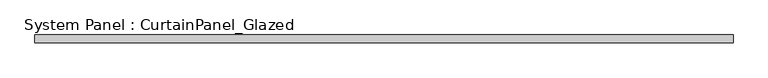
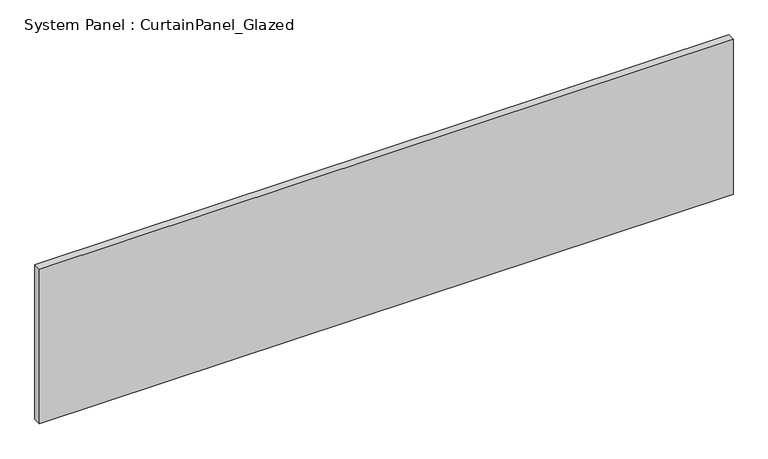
"""IFC4 building model written with IfcOpenShell, lengths in millimetres: plate geometry, System Panel : CurtainPanel_Glazed."""

import ifcopenshell
import ifcopenshell.guid

model = None  # the IFC model being written
_history = None  # IfcOwnerHistory: only IFC2X3 demands one
_inside = {}  # id of a spatial element -> (the spatial element, [elements in it])
_under = {}  # id of a project, library or spatial element -> (it, [spatial elements below it])
_declared = {}  # id of a project -> (the project, [libraries it declares])
_typed = {}  # id of a type object -> (the type object, [elements of that type])
_made_of = {}  # id of a material, layer set ... -> (it, [elements and type objects made of it])


def new_model(schema):
    """Start an empty IFC model of exactly this schema.

    Asked for "IFC4X3", IfcOpenShell would pick the latest addendum, in which some entities
    have other attributes; the version numbers below select the first issue.
    IFC2X3 requires an IfcOwnerHistory on every rooted entity: one is made here for all.
    """
    global model, _history
    if schema == "IFC4X3":
        model = ifcopenshell.file(schema_version=(4, 3, 0, 0))
    else:
        model = ifcopenshell.file(schema=schema)
    _inside.clear()
    _under.clear()
    _declared.clear()
    _typed.clear()
    _made_of.clear()
    _history = None
    if model.schema == "IFC2X3":
        org = make("IfcOrganization", Name="unknown")
        user = make(
            "IfcPersonAndOrganization",
            ThePerson=make("IfcPerson", FamilyName="unknown"),
            TheOrganization=org,
        )
        app = make(
            "IfcApplication",
            ApplicationDeveloper=org,
            Version="unknown",
            ApplicationFullName="unknown",
            ApplicationIdentifier="unknown",
        )
        _history = make(
            "IfcOwnerHistory",
            OwningUser=user,
            OwningApplication=app,
            ChangeAction="ADDED",
            CreationDate=0,
        )
    return model


def make(cls, **values):
    """One entity of the class cls with the attributes given. An attribute that is None is left unset."""
    return model.create_entity(
        cls, **{name: value for name, value in values.items() if value is not None}
    )


def rooted(cls, **values):
    """An entity with a GlobalId (a new one), such as an element, a storey or a relation."""
    return make(cls, GlobalId=ifcopenshell.guid.new(), OwnerHistory=_history, **values)


def si_unit(unit_type, name, prefix=None):
    """IfcSIUnit, for example si_unit("LENGTHUNIT", "METRE", prefix="MILLI")."""
    return make("IfcSIUnit", UnitType=unit_type, Prefix=prefix, Name=name)


def assignment(units):
    """IfcUnitAssignment: the units of a project."""
    return None if units is None else make("IfcUnitAssignment", Units=units)


def point(xyz):
    """IfcCartesianPoint."""
    return None if xyz is None else make("IfcCartesianPoint", Coordinates=xyz)


def direction(xyz):
    """IfcDirection."""
    return None if xyz is None else make("IfcDirection", DirectionRatios=xyz)


def frame(location, z_axis=None, x_axis=None):
    """IfcAxis2Placement3D, a coordinate frame: its origin and axes. An axis left out is left unset."""
    return make(
        "IfcAxis2Placement3D",
        Location=point(location),
        Axis=direction(z_axis),
        RefDirection=direction(x_axis),
    )


def origin():
    """The frame at (0, 0, 0) with its axes left unset."""
    return frame((0.0, 0.0, 0.0))


def origin_with_axes():
    """The frame at (0, 0, 0) with the z axis (0, 0, 1) and the x axis (1, 0, 0) written out."""
    return frame((0.0, 0.0, 0.0), z_axis=(0.0, 0.0, 1.0), x_axis=(1.0, 0.0, 0.0))


def place(relative_to, where):
    """IfcLocalPlacement: puts the frame where relative to a parent placement (None: the world)."""
    return make(
        "IfcLocalPlacement", PlacementRelTo=relative_to, RelativePlacement=where
    )


def context(
    kind, dimensions, precision=None, world=None, true_north=None, identifier=None
):
    """IfcGeometricRepresentationContext, for example the 3D "Model" context."""
    return make(
        "IfcGeometricRepresentationContext",
        ContextIdentifier=identifier,
        ContextType=kind,
        CoordinateSpaceDimension=dimensions,
        Precision=precision,
        WorldCoordinateSystem=world,
        TrueNorth=true_north,
    )


def project(units=None, contexts=None):
    """IfcProject with its units and contexts."""
    return rooted(
        "IfcProject",
        Name="project",
        RepresentationContexts=contexts,
        UnitsInContext=assignment(units),
    )


def spatial(cls, under=None, at=None, **own):
    """A site, building, storey or space (cls), placed at a placement, below another one or the project."""
    s = rooted(cls, ObjectPlacement=at, **own)
    if under is not None:
        _under.setdefault(under.id(), (under, []))[1].append(s)
    return s


def polyline(points):
    """IfcPolyline through the points."""
    return make("IfcPolyline", Points=[point(p) for p in points])


def outline(outer, holes=None, kind="AREA"):
    """IfcArbitraryClosedProfileDef: a profile drawn as a closed curve; with holes, ...WithVoids."""
    if holes is None:
        return make("IfcArbitraryClosedProfileDef", ProfileType=kind, OuterCurve=outer)
    return make(
        "IfcArbitraryProfileDefWithVoids",
        ProfileType=kind,
        OuterCurve=outer,
        InnerCurves=holes,
    )


def extrude(swept, where, along, depth):
    """IfcExtrudedAreaSolid: the profile swept, set in the frame where, extruded along a direction by depth."""
    return make(
        "IfcExtrudedAreaSolid",
        SweptArea=swept,
        Position=where,
        ExtrudedDirection=direction(along),
        Depth=depth,
    )


def shape(context_of_items, identifier, shape_type, items):
    """IfcShapeRepresentation: the items that make up one representation, for example the "Body"."""
    return make(
        "IfcShapeRepresentation",
        ContextOfItems=context_of_items,
        RepresentationIdentifier=identifier,
        RepresentationType=shape_type,
        Items=items,
    )


def source(mapping_origin, context_of_items, identifier, shape_type, items):
    """IfcRepresentationMap: a shape defined once, which mapped items show again and again."""
    return make(
        "IfcRepresentationMap",
        MappingOrigin=mapping_origin,
        MappedRepresentation=shape(context_of_items, identifier, shape_type, items),
    )


def transform(
    local_origin,
    x_axis=None,
    y_axis=None,
    z_axis=None,
    scale=None,
    scale2=None,
    scale3=None,
    uniform=True,
):
    """IfcCartesianTransformationOperator3D, or its non-uniform kind. x_axis, y_axis, z_axis: its Axis1, 2, 3."""
    if uniform:
        return make(
            "IfcCartesianTransformationOperator3D",
            Axis1=direction(x_axis),
            Axis2=direction(y_axis),
            LocalOrigin=point(local_origin),
            Scale=scale,
            Axis3=direction(z_axis),
        )
    return make(
        "IfcCartesianTransformationOperator3DnonUniform",
        Axis1=direction(x_axis),
        Axis2=direction(y_axis),
        LocalOrigin=point(local_origin),
        Scale=scale,
        Axis3=direction(z_axis),
        Scale2=scale2,
        Scale3=scale3,
    )


def mapped(mapping_source, mapping_target):
    """IfcMappedItem: shows the shape of a source again, moved by a transform."""
    return make(
        "IfcMappedItem", MappingSource=mapping_source, MappingTarget=mapping_target
    )


def made_of(thing, what):
    """Note that an element or type object is made of a material, layer set ...; save() writes the relation."""
    if what is not None:
        _made_of.setdefault(what.id(), (what, []))[1].append(thing)
    return thing


def element(
    cls,
    number,
    at=None,
    inside=None,
    cuts=None,
    type_object=None,
    material=None,
    context=None,
    identifier="Body",
    shape_type=None,
    held_by="IfcProductDefinitionShape",
    body=None,
    shapes=None,
    **own,
):
    """One element of the class cls, such as IfcWall. Its Tag is "e" and its number.

    at: its placement. inside: the storey or other place that contains it. cuts: it is an
    opening in that element (IfcRelVoidsElement). A single representation is given by context,
    identifier, shape_type and body (its items); several are given by shapes. held_by: the class
    of the entity that holds the representations. save() writes the other relations.
    """
    e = rooted(cls, Tag="e%d" % number, ObjectPlacement=at, **own)
    if body is not None:
        shapes = [shape(context, identifier, shape_type, body)]
    if shapes is not None:
        e.Representation = make(held_by, Representations=shapes)
    if inside is not None:
        _inside.setdefault(inside.id(), (inside, []))[1].append(e)
    if cuts is not None:
        rooted(
            "IfcRelVoidsElement", RelatingBuildingElement=cuts, RelatedOpeningElement=e
        )
    if type_object is not None:
        _typed.setdefault(type_object.id(), (type_object, []))[1].append(e)
    return made_of(e, material)


def aggregate(whole, parts):
    """IfcRelAggregates: a whole, such as a stair, and the parts it consists of."""
    return rooted("IfcRelAggregates", RelatingObject=whole, RelatedObjects=parts)


def save(model, path):
    """Write the relations noted so far, then the file.

    IfcRelAggregates (storeys below a building ...), IfcRelContainedInSpatialStructure (elements
    in a storey), IfcRelDefinesByType, IfcRelAssociatesMaterial and IfcRelDeclares: one each for
    every whole, place, type object, material and project.
    """
    for whole, parts in _under.values():
        aggregate(whole, parts)
    for where, things in _inside.values():
        rooted(
            "IfcRelContainedInSpatialStructure",
            RelatedElements=things,
            RelatingStructure=where,
        )
    for kind, things in _typed.values():
        rooted("IfcRelDefinesByType", RelatedObjects=things, RelatingType=kind)
    for what, things in _made_of.values():
        rooted("IfcRelAssociatesMaterial", RelatedObjects=things, RelatingMaterial=what)
    for by, libraries in _declared.values():
        rooted("IfcRelDeclares", RelatingContext=by, RelatedDefinitions=libraries)
    model.write(path)


def system_panel_curtainpanel_glazed_5b040634(model_context):
    return source(origin(), model_context, "Body", "SweptSolid", [
        extrude(outline(polyline([(1113.6000001, -12.5), (-1113.6000001, -12.5), (-1113.6000001, 12.5), (1113.6000001, 12.5), (1113.6000001, -12.5)])), origin_with_axes(), (0.0, 0.0, 1.0), 525.0),
    ])


if __name__ == "__main__":
    model = new_model("IFC4")
    model_context = context("Model", 3, world=origin())
    ifc_project = project(units=[si_unit("LENGTHUNIT", "METRE", prefix="MILLI")], contexts=[model_context])
    site = spatial("IfcSite", under=ifc_project)
    building = spatial("IfcBuilding", under=site)
    placement = place(None, origin())
    system_panel_curtainpanel_glazed_shape = system_panel_curtainpanel_glazed_5b040634(model_context)
    element("IfcPlate", 1, ObjectType="System Panel : CurtainPanel_Glazed", at=placement, inside=building, context=model_context, shape_type="MappedRepresentation", body=[
        mapped(system_panel_curtainpanel_glazed_shape, transform((0.0, 0.0, 0.0), x_axis=(1.0, 0.0, 0.0), y_axis=(0.0, 1.0, 0.0), z_axis=(0.0, 0.0, 1.0))),
    ])
    save(model, "model.ifc")
